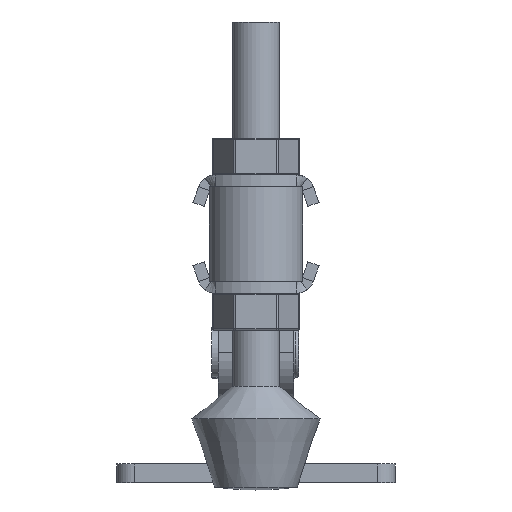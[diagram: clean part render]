
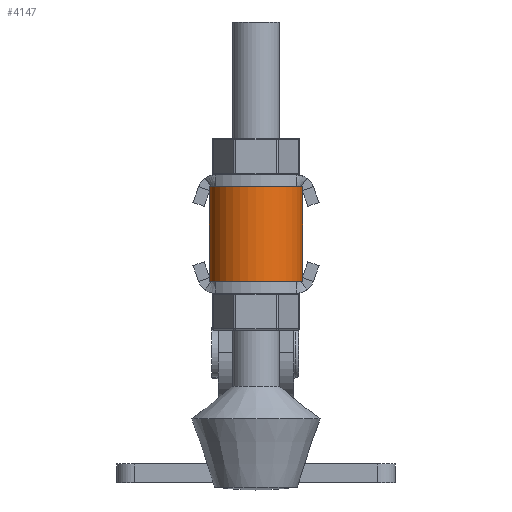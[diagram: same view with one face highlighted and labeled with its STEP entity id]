
A CAD part, left-side view. The second image highlights one B-rep face of the part: STEP entity #4147.
In plain terms, the highlighted cylindrical face has radius 7.9 mm (diameter 15.8 mm), a partial arc.
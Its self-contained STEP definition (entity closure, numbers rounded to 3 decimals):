
#313=LINE('',#6645,#609);
#328=LINE('',#6691,#624);
#609=VECTOR('',#5314,16.);
#624=VECTOR('',#5353,16.);
#1024=FACE_OUTER_BOUND('',#1346,.T.);
#1346=EDGE_LOOP('',(#3213,#3214,#3215,#3216));
#1634=CIRCLE('',#4511,7.9);
#1636=CIRCLE('',#4516,7.9);
#1935=VERTEX_POINT('',#6642);
#1936=VERTEX_POINT('',#6644);
#1952=VERTEX_POINT('',#6679);
#1955=VERTEX_POINT('',#6689);
#2366=EDGE_CURVE('',#1935,#1936,#313,.T.);
#2385=EDGE_CURVE('',#1952,#1935,#1634,.T.);
#2390=EDGE_CURVE('',#1952,#1955,#328,.T.);
#2391=EDGE_CURVE('',#1955,#1936,#1636,.T.);
#3213=ORIENTED_EDGE('',*,*,#2390,.T.);
#3214=ORIENTED_EDGE('',*,*,#2391,.T.);
#3215=ORIENTED_EDGE('',*,*,#2366,.F.);
#3216=ORIENTED_EDGE('',*,*,#2385,.F.);
#3974=CYLINDRICAL_SURFACE('',#4541,7.9);
#4147=ADVANCED_FACE('',(#1024),#3974,.T.);
#4511=AXIS2_PLACEMENT_3D('',#6681,#5342,#5343);
#4516=AXIS2_PLACEMENT_3D('',#6693,#5356,#5357);
#4541=AXIS2_PLACEMENT_3D('',#6778,#5432,#5433);
#5314=DIRECTION('',(0.,1.,0.));
#5342=DIRECTION('center_axis',(0.,-1.,0.));
#5343=DIRECTION('ref_axis',(0.,0.,
1.));
#5353=DIRECTION('',(0.,1.,0.));
#5356=DIRECTION('center_axis',(0.,-1.,0.));
#5357=DIRECTION('ref_axis',(0.,0.,
1.));
#5432=DIRECTION('center_axis',(0.,-1.,0.));
#5433=DIRECTION('ref_axis',(1.,0.,0.));
#6642=CARTESIAN_POINT('',(-61.1,20.,-11.1));
#6644=CARTESIAN_POINT('',(-61.1,36.,-11.1));
#6645=CARTESIAN_POINT('',(-61.1,36.,-11.1));
#6679=CARTESIAN_POINT('',(-61.1,20.,4.7));
#6681=CARTESIAN_POINT('Origin',(-61.1,20.,-3.2));
#6689=CARTESIAN_POINT('',(-61.1,36.,4.7));
#6691=CARTESIAN_POINT('',(-61.1,36.,4.7));
#6693=CARTESIAN_POINT('Origin',(-61.1,36.,-3.2));
#6778=CARTESIAN_POINT('Origin',(-61.1,28.,-3.2));
